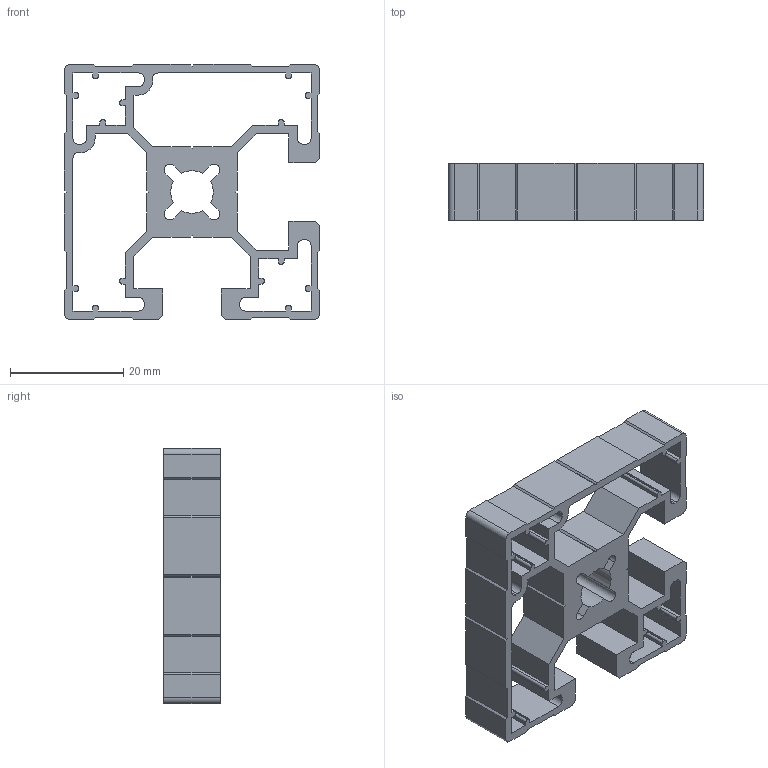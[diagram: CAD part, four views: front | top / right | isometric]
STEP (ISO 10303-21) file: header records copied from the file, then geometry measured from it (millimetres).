
FILE_DESCRIPTION((''),'2;1');
FILE_NAME('PR045C02','2002-12-27T',('Lipro doo'),('Lipro d.o.o.'),'PRO/ENGINEER BY PARAMETRIC TECHNOLOGY CORPORATION, 2001150','PRO/ENGINEER BY PARAMETRIC TECHNOLOGY CORPORATION, 2001150','');
FILE_SCHEMA(('CONFIG_CONTROL_DESIGN'));
Length unit declared in the file: millimetre
Products named in the file (1): PR045C02
Bounding box: 45 x 10 x 45 mm (x, y, z)
Volume: 5895.2 mm3; surface area: 7293.8 mm2
Topology: 1 solids, 1 shells, 238 faces, 708 edges, 472 vertices
Faces by surface type: plane 182, cylinder 56
Entity records: 7982 total; most frequent: CARTESIAN_POINT 1418, ORIENTED_EDGE 1416, DIRECTION 1296, EDGE_CURVE 708, VECTOR 596, LINE 596, VERTEX_POINT 472, AXIS2_PLACEMENT_3D 350
